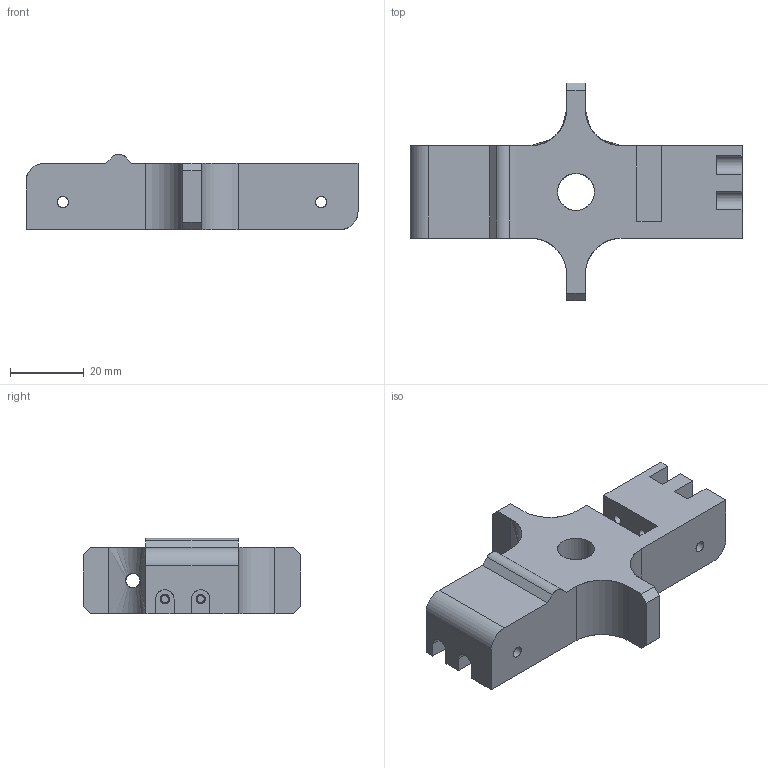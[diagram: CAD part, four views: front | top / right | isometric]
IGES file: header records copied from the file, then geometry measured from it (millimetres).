
Global section: file name: C:\Users\gehrichcr\Documents\1 Drive Backup\Practice\Inspire\V1.5\IGES\Wormdrive Endstop Holder for M8.igs; native system: NX V8.5; preprocessor: SIEMENS PLM Software NX 8.5; date: 20150608.123658; units: millimetre
Bounding box: 90 x 59 x 20.5 mm (x, y, z)
Surface area: 13204.7 mm2 (no closed solid volume)
Topology: 0 solids, 0 shells, 68 faces, 610 edges, 603 vertices
Faces by surface type: bspline 68
